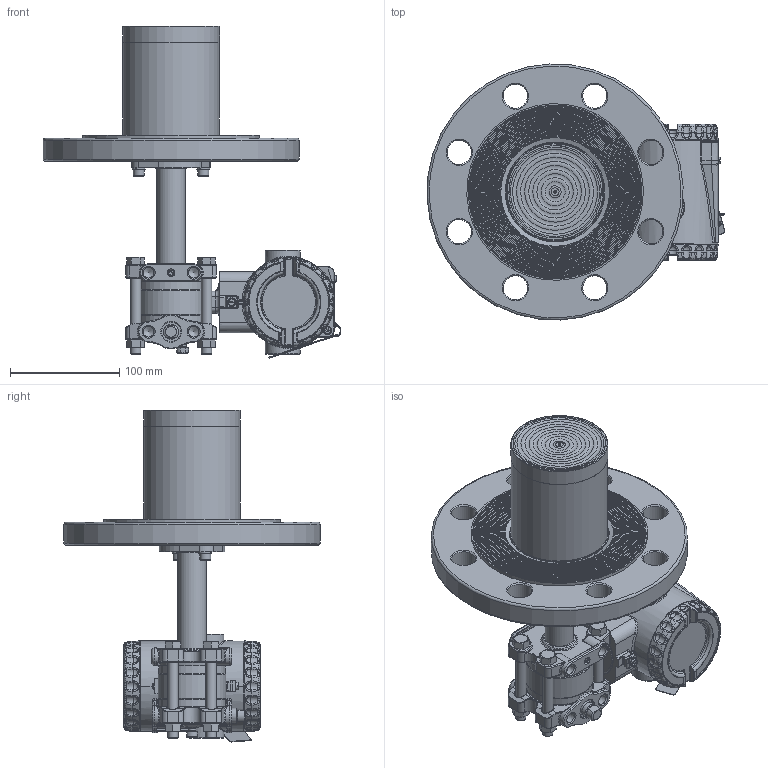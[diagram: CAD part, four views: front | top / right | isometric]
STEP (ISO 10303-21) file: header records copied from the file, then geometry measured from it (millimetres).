
FILE_DESCRIPTION(/* description */ (''),/* implementation_level */ '2;1');
FILE_NAME(/* name */ 'F:\Area\Desenvolvimento_2\Projects\Sensor\projetos\LD400-3d\dimensionais 3D clientes\LD400L\LD400L DN100 PN40 RF ext 100 ref 1-4NPT purga acima.stp',/* time_stamp */ '2023-02-23T17:32:58-03:00',/* author */ ('inventor02'),/* organization */ (''),/* preprocessor_version */ 'ST-DEVELOPER v17',/* originating_system */ 'Autodesk Inventor 2019',/* authorisation */ '');
FILE_SCHEMA (('CONFIG_CONTROL_DESIGN'));
Products named in the file (41): LD30XL DN100 PN40 RF ext 100 ref 1-4NPT purga acima; 204-0301-L-DN100 PN40 RF ext 100 purga acima; nivel fx3 com baixa diferencial 1-4NPT purga acima; involucro fx0-3 apos a usinagem final; flange diferencial std purga; 101-C-7484-01 flange selo nivel VR; 201-A-0504-tubo união teste 1; bujao 1-4NPT; Sangria; Porca 3-8 x 16 UNC; Paraf. 3-8 x 16 UNC; adaptação tubo x flanges 1-1-2 a 4pol; 101-B-0161-anel cortado do tubo - teste1; 101-B-0162-flange fixação tubo; ANSI B18.3.1M - M6x1 x 16; DIN 127 - A 6; flange DN100 PN40 ext 100; 096-B-0212-15; 101-B-7702-02 ext 4-100; 101-C-0143-09; Carcaça 400 com tampas e plaqueta sem letras; 101-D-0845-05 carcaça LD400 sem letras; 101-B-3614-03-tampa 400 sem letras; Tampa visor 400 montada sem letras; 101-B-3612-05 tampa visor 400 sem letras; 101-A-6107; oring 2034; 00034775-0; WHW_250; DIN 915 - M6 x 10; Chapa aterramento externo; 201-A-1771-02 inserto terra recartilhado; AS 1969 - ST4,2; ISO 1207 - M4 x 8; ANSI B18.3.1M - M4x0,7 x 8; Subconjunto plaqueta 400; plaqueta 400 em branco; Parafuso da Plaqueta; Rebite da Plaqueta; 096-A-0169-03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
Assembly tree (50 placements, depth 4):
  LD30XL DN100 PN40 RF ext 100 ref 1-4NPT purga acima
    204-0301-L-DN100 PN40 RF ext 100 purga acima
      nivel fx3 com baixa diferencial 1-4NPT purga acima
        involucro fx0-3 apos a usinagem final
        flange diferencial std purga
        101-C-7484-01 flange selo nivel VR
        201-A-0504-tubo união teste 1
        DIN 915 - M6 x 10
        bujao 1-4NPT
        Sangria
        Porca 3-8 x 16 UNC  x4
        Paraf. 3-8 x 16 UNC  x4
      adaptação tubo x flanges 1-1-2 a 4pol
        101-B-0161-anel cortado do tubo - teste1
        101-B-0162-flange fixação tubo
        ANSI B18.3.1M - M6x1 x 16  x2
        DIN 127 - A 6  x2
      flange DN100 PN40 ext 100
        096-B-0212-15
        101-B-7702-02 ext 4-100
        101-C-0143-09
    Carcaça 400 com tampas e plaqueta sem letras
      101-D-0845-05 carcaça LD400 sem letras
      101-B-3614-03-tampa 400 sem letras
      Tampa visor 400 montada sem letras
        101-B-3612-05 tampa visor 400 sem letras
        101-A-6107
        oring 2034
        00034775-0
        WHW_250
      DIN 915 - M6 x 10
      Chapa aterramento externo
      201-A-1771-02 inserto terra recartilhado
      AS 1969 - ST4,2
      ISO 1207 - M4 x 8
      ANSI B18.3.1M - M4x0,7 x 8  x2
      Subconjunto plaqueta 400
        plaqueta 400 em branco
        Parafuso da Plaqueta
        Rebite da Plaqueta
        096-A-0169-03
        101-A-0502-01
Bounding box: 273.14 x 234.78 x 304.42 mm (x, y, z)
Volume: 1738391.5 mm3; surface area: 433530.2 mm2
Topology: 43 solids, 43 shells, 2837 faces, 6840 edges, 4116 vertices
Faces by surface type: plane 753, cylinder 668, bspline 604, torus 506, cone 230, sphere 76
Full cylindrical faces by diameter (mm): 2 x4, 2.1 x1, 2.2 x1, 2.459 x3, 2.5 x1, 2.7 x1, 2.8 x1, 3 x4, 3.242 x3, 3.5 x1, 3.571 x1, 4 x5, 4.3 x2, 4.4 x1, 4.917 x4, 5 x1, 5.5 x3, 6 x6, 6.1 x2, 6.2 x1, 6.647 x1, 7 x5, 7.6 x2, 7.798 x4, 8 x1, 9.525 x4, 9.728 x6, 10 x2, 10.5 x8, 10.719 x2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
Entity records: 100492 total; most frequent: CARTESIAN_POINT 37355, DIRECTION 13086, ORIENTED_EDGE 12920, EDGE_CURVE 6460, AXIS2_PLACEMENT_3D 5626, VERTEX_POINT 3922, CIRCLE 3276, EDGE_LOOP 2912
